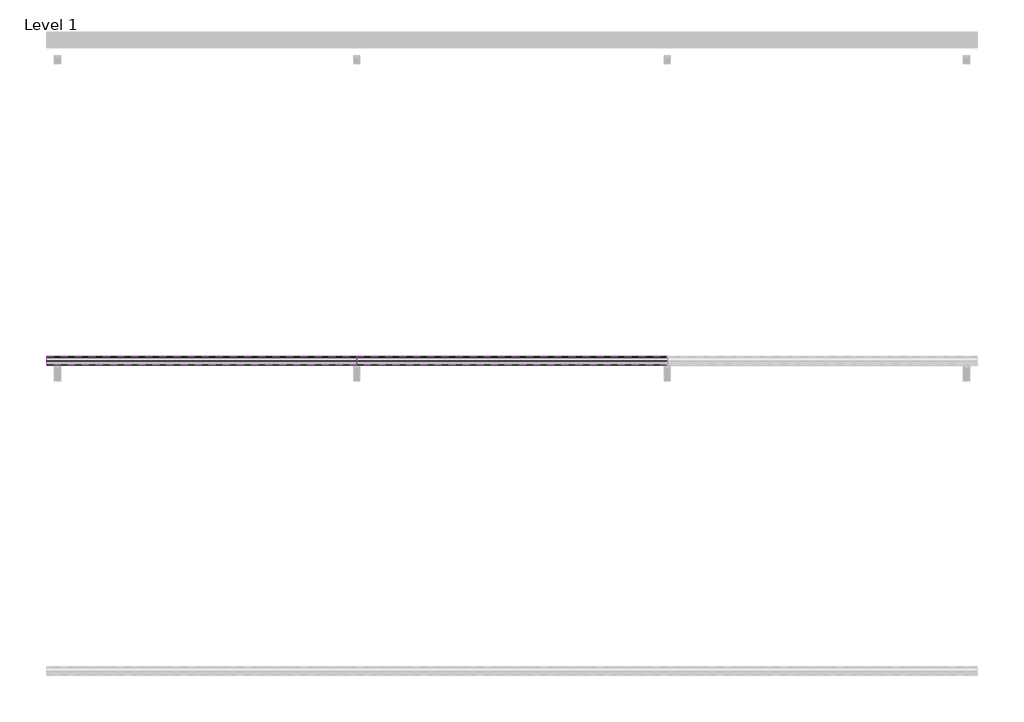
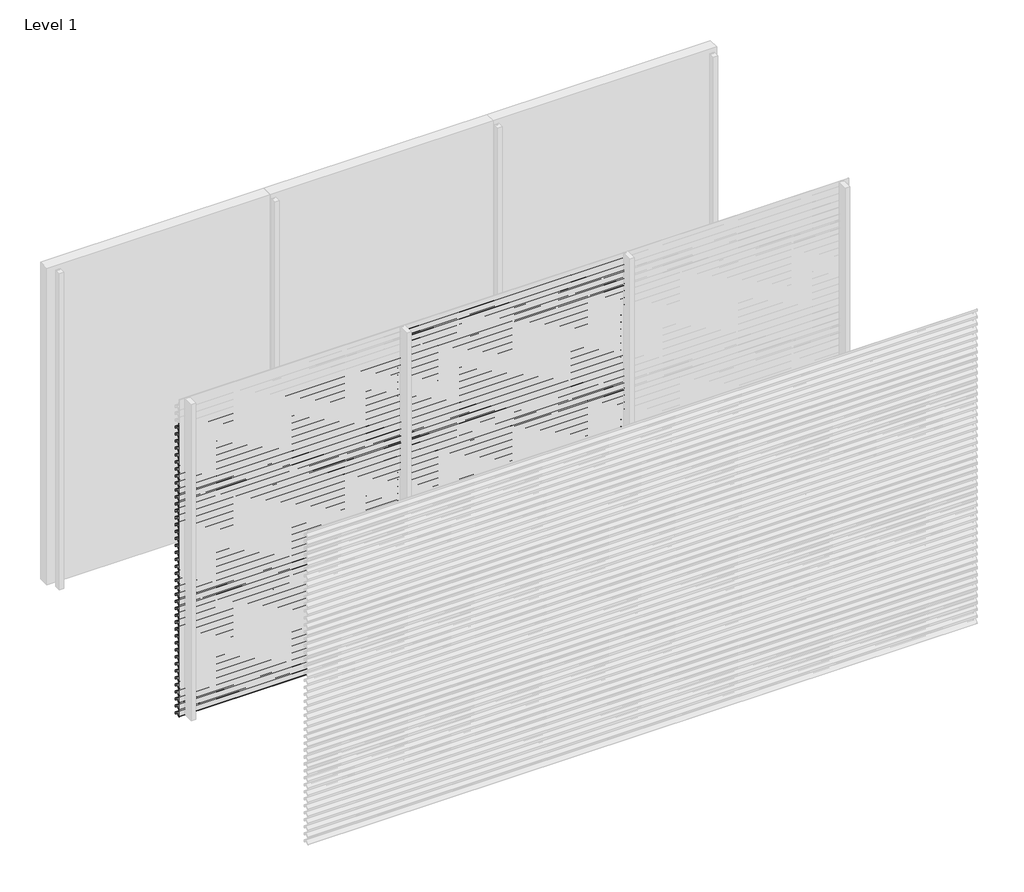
# One storey, part 11 of 27: 70 proxies.
"""IFC4 building model written with IfcOpenShell, lengths in millimetres."""

from ifc_helpers import new_model, si_unit, frame, origin, place, context, project, spatial, polyline, outline, extrude, element, save

model = new_model("IFC4")

# Units and contexts
model_context = context("Model", 3, world=origin())
ifc_project = project(units=[si_unit("LENGTHUNIT", "METRE", prefix="MILLI")], contexts=[model_context])

# Site, building, storey
site = spatial("IfcSite", under=ifc_project)
building = spatial("IfcBuilding", under=site)
storey = spatial("IfcBuildingStorey", under=building, Name="Level 1", Elevation=0.0)

# Proxies
placement = place(None, origin())
element("IfcBuildingElementProxy", 1, Name="Wall Sweeps", at=placement, inside=storey, context=model_context, shape_type="SweptSolid", body=[
    extrude(outline(polyline([(-35943.0, 2715.2), (-35943.0, 2695.5), (-35944.25, 2696.5866084), (-35944.25, 2714.4872415), (-35963.0322086, 2727.6010889), (-35995.1332975, 2695.5), (-35996.0525363, 2696.4192388), (-35964.1148087, 2728.3569665), (-35998.0, 2752.0158044), (-35998.0, 2772.0), (-35996.75, 2772.0), (-35996.75, 2752.7285629), (-35943.0, 2715.2)])), frame((0.0, 0.0, 0.0), z_axis=(1.0, 0.0, 0.0), x_axis=(0.0, 1.0, 0.0)), (0.0, 0.0, 1.0), 2000.0),
])
element("IfcBuildingElementProxy", 2, Name="Wall Sweeps", at=placement, inside=storey, context=model_context, shape_type="SweptSolid", body=[
    extrude(outline(polyline([(-35943.0, 2649.2), (-35943.0, 2629.5), (-35944.25, 2630.5866084), (-35944.25, 2648.4872415), (-35963.0322086, 2661.6010889), (-35995.1332975, 2629.5), (-35996.0525363, 2630.4192388), (-35964.1148087, 2662.3569665), (-35998.0, 2686.0158044), (-35998.0, 2706.0), (-35996.75, 2706.0), (-35996.75, 2686.7285629), (-35943.0, 2649.2)])), frame((0.0, 0.0, 0.0), z_axis=(1.0, 0.0, 0.0), x_axis=(0.0, 1.0, 0.0)), (0.0, 0.0, 1.0), 2000.0),
])
element("IfcBuildingElementProxy", 3, Name="Wall Sweeps", at=placement, inside=storey, context=model_context, shape_type="SweptSolid", body=[
    extrude(outline(polyline([(-35943.0, 2583.2), (-35943.0, 2563.5), (-35944.25, 2564.5866084), (-35944.25, 2582.4872415), (-35963.0322086, 2595.6010889), (-35995.1332975, 2563.5), (-35996.0525363, 2564.4192388), (-35964.1148087, 2596.3569665), (-35998.0, 2620.0158044), (-35998.0, 2640.0), (-35996.75, 2640.0), (-35996.75, 2620.7285629), (-35943.0, 2583.2)])), frame((0.0, 0.0, 0.0), z_axis=(1.0, 0.0, 0.0), x_axis=(0.0, 1.0, 0.0)), (0.0, 0.0, 1.0), 2000.0),
])
element("IfcBuildingElementProxy", 4, Name="Wall Sweeps", at=placement, inside=storey, context=model_context, shape_type="SweptSolid", body=[
    extrude(outline(polyline([(-35943.0, 2517.2), (-35943.0, 2497.5), (-35944.25, 2498.5866084), (-35944.25, 2516.4872415), (-35963.0322086, 2529.6010889), (-35995.1332975, 2497.5), (-35996.0525363, 2498.4192388), (-35964.1148087, 2530.3569665), (-35998.0, 2554.0158044), (-35998.0, 2574.0), (-35996.75, 2574.0), (-35996.75, 2554.7285629), (-35943.0, 2517.2)])), frame((0.0, 0.0, 0.0), z_axis=(1.0, 0.0, 0.0), x_axis=(0.0, 1.0, 0.0)), (0.0, 0.0, 1.0), 2000.0),
])
element("IfcBuildingElementProxy", 5, Name="Wall Sweeps", at=placement, inside=storey, context=model_context, shape_type="SweptSolid", body=[
    extrude(outline(polyline([(-35943.0, 2451.2), (-35943.0, 2431.5), (-35944.25, 2432.5866084), (-35944.25, 2450.4872415), (-35963.0322086, 2463.6010889), (-35995.1332975, 2431.5), (-35996.0525363, 2432.4192388), (-35964.1148087, 2464.3569665), (-35998.0, 2488.0158044), (-35998.0, 2508.0), (-35996.75, 2508.0), (-35996.75, 2488.7285629), (-35943.0, 2451.2)])), frame((0.0, 0.0, 0.0), z_axis=(1.0, 0.0, 0.0), x_axis=(0.0, 1.0, 0.0)), (0.0, 0.0, 1.0), 2000.0),
])
element("IfcBuildingElementProxy", 6, Name="Wall Sweeps", at=placement, inside=storey, context=model_context, shape_type="SweptSolid", body=[
    extrude(outline(polyline([(-35943.0, 2385.2), (-35943.0, 2365.5), (-35944.25, 2366.5866084), (-35944.25, 2384.4872415), (-35963.0322086, 2397.6010889), (-35995.1332975, 2365.5), (-35996.0525363, 2366.4192388), (-35964.1148087, 2398.3569665), (-35998.0, 2422.0158044), (-35998.0, 2442.0), (-35996.75, 2442.0), (-35996.75, 2422.7285629), (-35943.0, 2385.2)])), frame((0.0, 0.0, 0.0), z_axis=(1.0, 0.0, 0.0), x_axis=(0.0, 1.0, 0.0)), (0.0, 0.0, 1.0), 2000.0),
])
element("IfcBuildingElementProxy", 7, Name="Wall Sweeps", at=placement, inside=storey, context=model_context, shape_type="SweptSolid", body=[
    extrude(outline(polyline([(-35943.0, 2319.2), (-35943.0, 2299.5), (-35944.25, 2300.5866084), (-35944.25, 2318.4872415), (-35963.0322086, 2331.6010889), (-35995.1332975, 2299.5), (-35996.0525363, 2300.4192388), (-35964.1148087, 2332.3569665), (-35998.0, 2356.0158044), (-35998.0, 2376.0), (-35996.75, 2376.0), (-35996.75, 2356.7285629), (-35943.0, 2319.2)])), frame((0.0, 0.0, 0.0), z_axis=(1.0, 0.0, 0.0), x_axis=(0.0, 1.0, 0.0)), (0.0, 0.0, 1.0), 2000.0),
])
element("IfcBuildingElementProxy", 8, Name="Wall Sweeps", at=placement, inside=storey, context=model_context, shape_type="SweptSolid", body=[
    extrude(outline(polyline([(-35943.0, 2253.2), (-35943.0, 2233.5), (-35944.25, 2234.5866084), (-35944.25, 2252.4872415), (-35963.0322086, 2265.6010889), (-35995.1332975, 2233.5), (-35996.0525363, 2234.4192388), (-35964.1148087, 2266.3569665), (-35998.0, 2290.0158044), (-35998.0, 2310.0), (-35996.75, 2310.0), (-35996.75, 2290.7285629), (-35943.0, 2253.2)])), frame((0.0, 0.0, 0.0), z_axis=(1.0, 0.0, 0.0), x_axis=(0.0, 1.0, 0.0)), (0.0, 0.0, 1.0), 2000.0),
])
element("IfcBuildingElementProxy", 9, Name="Wall Sweeps", at=placement, inside=storey, context=model_context, shape_type="SweptSolid", body=[
    extrude(outline(polyline([(-35943.0, 2187.2), (-35943.0, 2167.5), (-35944.25, 2168.5866084), (-35944.25, 2186.4872415), (-35963.0322086, 2199.6010889), (-35995.1332975, 2167.5), (-35996.0525363, 2168.4192388), (-35964.1148087, 2200.3569665), (-35998.0, 2224.0158044), (-35998.0, 2244.0), (-35996.75, 2244.0), (-35996.75, 2224.7285629), (-35943.0, 2187.2)])), frame((0.0, 0.0, 0.0), z_axis=(1.0, 0.0, 0.0), x_axis=(0.0, 1.0, 0.0)), (0.0, 0.0, 1.0), 2000.0),
])
element("IfcBuildingElementProxy", 10, Name="Wall Sweeps", at=placement, inside=storey, context=model_context, shape_type="SweptSolid", body=[
    extrude(outline(polyline([(-35943.0, 2121.2), (-35943.0, 2101.5), (-35944.25, 2102.5866084), (-35944.25, 2120.4872415), (-35963.0322086, 2133.6010889), (-35995.1332975, 2101.5), (-35996.0525363, 2102.4192388), (-35964.1148087, 2134.3569665), (-35998.0, 2158.0158044), (-35998.0, 2178.0), (-35996.75, 2178.0), (-35996.75, 2158.7285629), (-35943.0, 2121.2)])), frame((0.0, 0.0, 0.0), z_axis=(1.0, 0.0, 0.0), x_axis=(0.0, 1.0, 0.0)), (0.0, 0.0, 1.0), 2000.0),
])
element("IfcBuildingElementProxy", 11, Name="Wall Sweeps", at=placement, inside=storey, context=model_context, shape_type="SweptSolid", body=[
    extrude(outline(polyline([(-35943.0, 2055.2), (-35943.0, 2035.5), (-35944.25, 2036.5866084), (-35944.25, 2054.4872415), (-35963.0322086, 2067.6010889), (-35995.1332975, 2035.5), (-35996.0525363, 2036.4192388), (-35964.1148087, 2068.3569665), (-35998.0, 2092.0158044), (-35998.0, 2112.0), (-35996.75, 2112.0), (-35996.75, 2092.7285629), (-35943.0, 2055.2)])), frame((0.0, 0.0, 0.0), z_axis=(1.0, 0.0, 0.0), x_axis=(0.0, 1.0, 0.0)), (0.0, 0.0, 1.0), 2000.0),
])
element("IfcBuildingElementProxy", 12, Name="Wall Sweeps", at=placement, inside=storey, context=model_context, shape_type="SweptSolid", body=[
    extrude(outline(polyline([(-35943.0, 1989.2), (-35943.0, 1969.5), (-35944.25, 1970.5866084), (-35944.25, 1988.4872415), (-35963.0322086, 2001.6010889), (-35995.1332975, 1969.5), (-35996.0525363, 1970.4192388), (-35964.1148087, 2002.3569665), (-35998.0, 2026.0158044), (-35998.0, 2046.0), (-35996.75, 2046.0), (-35996.75, 2026.7285629), (-35943.0, 1989.2)])), frame((0.0, 0.0, 0.0), z_axis=(1.0, 0.0, 0.0), x_axis=(0.0, 1.0, 0.0)), (0.0, 0.0, 1.0), 2000.0),
])
element("IfcBuildingElementProxy", 13, Name="Wall Sweeps", at=placement, inside=storey, context=model_context, shape_type="SweptSolid", body=[
    extrude(outline(polyline([(-35943.0, 1923.2), (-35943.0, 1903.5), (-35944.25, 1904.5866084), (-35944.25, 1922.4872415), (-35963.0322086, 1935.6010889), (-35995.1332975, 1903.5), (-35996.0525363, 1904.4192388), (-35964.1148087, 1936.3569665), (-35998.0, 1960.0158044), (-35998.0, 1980.0), (-35996.75, 1980.0), (-35996.75, 1960.7285629), (-35943.0, 1923.2)])), frame((0.0, 0.0, 0.0), z_axis=(1.0, 0.0, 0.0), x_axis=(0.0, 1.0, 0.0)), (0.0, 0.0, 1.0), 2000.0),
])
element("IfcBuildingElementProxy", 14, Name="Wall Sweeps", at=placement, inside=storey, context=model_context, shape_type="SweptSolid", body=[
    extrude(outline(polyline([(-35943.0, 1857.2), (-35943.0, 1837.5), (-35944.25, 1838.5866084), (-35944.25, 1856.4872415), (-35963.0322086, 1869.6010889), (-35995.1332975, 1837.5), (-35996.0525363, 1838.4192388), (-35964.1148087, 1870.3569665), (-35998.0, 1894.0158044), (-35998.0, 1914.0), (-35996.75, 1914.0), (-35996.75, 1894.7285629), (-35943.0, 1857.2)])), frame((0.0, 0.0, 0.0), z_axis=(1.0, 0.0, 0.0), x_axis=(0.0, 1.0, 0.0)), (0.0, 0.0, 1.0), 2000.0),
])
element("IfcBuildingElementProxy", 15, Name="Wall Sweeps", at=placement, inside=storey, context=model_context, shape_type="SweptSolid", body=[
    extrude(outline(polyline([(-35943.0, 1791.2), (-35943.0, 1771.5), (-35944.25, 1772.5866084), (-35944.25, 1790.4872415), (-35963.0322086, 1803.6010889), (-35995.1332975, 1771.5), (-35996.0525363, 1772.4192388), (-35964.1148087, 1804.3569665), (-35998.0, 1828.0158044), (-35998.0, 1848.0), (-35996.75, 1848.0), (-35996.75, 1828.7285629), (-35943.0, 1791.2)])), frame((0.0, 0.0, 0.0), z_axis=(1.0, 0.0, 0.0), x_axis=(0.0, 1.0, 0.0)), (0.0, 0.0, 1.0), 2000.0),
])
element("IfcBuildingElementProxy", 16, Name="Wall Sweeps", at=placement, inside=storey, context=model_context, shape_type="SweptSolid", body=[
    extrude(outline(polyline([(-35943.0, 1725.2), (-35943.0, 1705.5), (-35944.25, 1706.5866084), (-35944.25, 1724.4872415), (-35963.0322086, 1737.6010889), (-35995.1332975, 1705.5), (-35996.0525363, 1706.4192388), (-35964.1148087, 1738.3569665), (-35998.0, 1762.0158044), (-35998.0, 1782.0), (-35996.75, 1782.0), (-35996.75, 1762.7285629), (-35943.0, 1725.2)])), frame((0.0, 0.0, 0.0), z_axis=(1.0, 0.0, 0.0), x_axis=(0.0, 1.0, 0.0)), (0.0, 0.0, 1.0), 2000.0),
])
element("IfcBuildingElementProxy", 17, Name="Wall Sweeps", at=placement, inside=storey, context=model_context, shape_type="SweptSolid", body=[
    extrude(outline(polyline([(-35943.0, 1659.2), (-35943.0, 1639.5), (-35944.25, 1640.5866084), (-35944.25, 1658.4872415), (-35963.0322086, 1671.6010889), (-35995.1332975, 1639.5), (-35996.0525363, 1640.4192388), (-35964.1148087, 1672.3569665), (-35998.0, 1696.0158044), (-35998.0, 1716.0), (-35996.75, 1716.0), (-35996.75, 1696.7285629), (-35943.0, 1659.2)])), frame((0.0, 0.0, 0.0), z_axis=(1.0, 0.0, 0.0), x_axis=(0.0, 1.0, 0.0)), (0.0, 0.0, 1.0), 2000.0),
])
element("IfcBuildingElementProxy", 18, Name="Wall Sweeps", at=placement, inside=storey, context=model_context, shape_type="SweptSolid", body=[
    extrude(outline(polyline([(-35943.0, 1593.2), (-35943.0, 1573.5), (-35944.25, 1574.5866084), (-35944.25, 1592.4872415), (-35963.0322086, 1605.6010889), (-35995.1332975, 1573.5), (-35996.0525363, 1574.4192388), (-35964.1148087, 1606.3569665), (-35998.0, 1630.0158044), (-35998.0, 1650.0), (-35996.75, 1650.0), (-35996.75, 1630.7285629), (-35943.0, 1593.2)])), frame((0.0, 0.0, 0.0), z_axis=(1.0, 0.0, 0.0), x_axis=(0.0, 1.0, 0.0)), (0.0, 0.0, 1.0), 2000.0),
])
element("IfcBuildingElementProxy", 19, Name="Wall Sweeps", at=placement, inside=storey, context=model_context, shape_type="SweptSolid", body=[
    extrude(outline(polyline([(-35943.0, 1527.2), (-35943.0, 1507.5), (-35944.25, 1508.5866084), (-35944.25, 1526.4872415), (-35963.0322086, 1539.6010889), (-35995.1332975, 1507.5), (-35996.0525363, 1508.4192388), (-35964.1148087, 1540.3569665), (-35998.0, 1564.0158044), (-35998.0, 1584.0), (-35996.75, 1584.0), (-35996.75, 1564.7285629), (-35943.0, 1527.2)])), frame((0.0, 0.0, 0.0), z_axis=(1.0, 0.0, 0.0), x_axis=(0.0, 1.0, 0.0)), (0.0, 0.0, 1.0), 2000.0),
])
element("IfcBuildingElementProxy", 20, Name="Wall Sweeps", at=placement, inside=storey, context=model_context, shape_type="SweptSolid", body=[
    extrude(outline(polyline([(-35943.0, 1461.2), (-35943.0, 1441.5), (-35944.25, 1442.5866084), (-35944.25, 1460.4872415), (-35963.0322086, 1473.6010889), (-35995.1332975, 1441.5), (-35996.0525363, 1442.4192388), (-35964.1148087, 1474.3569665), (-35998.0, 1498.0158044), (-35998.0, 1518.0), (-35996.75, 1518.0), (-35996.75, 1498.7285629), (-35943.0, 1461.2)])), frame((0.0, 0.0, 0.0), z_axis=(1.0, 0.0, 0.0), x_axis=(0.0, 1.0, 0.0)), (0.0, 0.0, 1.0), 2000.0),
])
element("IfcBuildingElementProxy", 21, Name="Wall Sweeps", at=placement, inside=storey, context=model_context, shape_type="SweptSolid", body=[
    extrude(outline(polyline([(-35943.0, 1395.2), (-35943.0, 1375.5), (-35944.25, 1376.5866084), (-35944.25, 1394.4872415), (-35963.0322086, 1407.6010889), (-35995.1332975, 1375.5), (-35996.0525363, 1376.4192388), (-35964.1148087, 1408.3569665), (-35998.0, 1432.0158044), (-35998.0, 1452.0), (-35996.75, 1452.0), (-35996.75, 1432.7285629), (-35943.0, 1395.2)])), frame((0.0, 0.0, 0.0), z_axis=(1.0, 0.0, 0.0), x_axis=(0.0, 1.0, 0.0)), (0.0, 0.0, 1.0), 2000.0),
])
element("IfcBuildingElementProxy", 22, Name="Wall Sweeps", at=placement, inside=storey, context=model_context, shape_type="SweptSolid", body=[
    extrude(outline(polyline([(-35943.0, 1329.2), (-35943.0, 1309.5), (-35944.25, 1310.5866084), (-35944.25, 1328.4872415), (-35963.0322086, 1341.6010889), (-35995.1332975, 1309.5), (-35996.0525363, 1310.4192388), (-35964.1148087, 1342.3569665), (-35998.0, 1366.0158044), (-35998.0, 1386.0), (-35996.75, 1386.0), (-35996.75, 1366.7285629), (-35943.0, 1329.2)])), frame((0.0, 0.0, 0.0), z_axis=(1.0, 0.0, 0.0), x_axis=(0.0, 1.0, 0.0)), (0.0, 0.0, 1.0), 2000.0),
])
element("IfcBuildingElementProxy", 23, Name="Wall Sweeps", at=placement, inside=storey, context=model_context, shape_type="SweptSolid", body=[
    extrude(outline(polyline([(-35943.0, 1263.2), (-35943.0, 1243.5), (-35944.25, 1244.5866084), (-35944.25, 1262.4872415), (-35963.0322086, 1275.6010889), (-35995.1332975, 1243.5), (-35996.0525363, 1244.4192388), (-35964.1148087, 1276.3569665), (-35998.0, 1300.0158044), (-35998.0, 1320.0), (-35996.75, 1320.0), (-35996.75, 1300.7285629), (-35943.0, 1263.2)])), frame((0.0, 0.0, 0.0), z_axis=(1.0, 0.0, 0.0), x_axis=(0.0, 1.0, 0.0)), (0.0, 0.0, 1.0), 2000.0),
])
element("IfcBuildingElementProxy", 24, Name="Wall Sweeps", at=placement, inside=storey, context=model_context, shape_type="SweptSolid", body=[
    extrude(outline(polyline([(-35943.0, 1197.2), (-35943.0, 1177.5), (-35944.25, 1178.5866084), (-35944.25, 1196.4872415), (-35963.0322086, 1209.6010889), (-35995.1332975, 1177.5), (-35996.0525363, 1178.4192388), (-35964.1148087, 1210.3569665), (-35998.0, 1234.0158044), (-35998.0, 1254.0), (-35996.75, 1254.0), (-35996.75, 1234.7285629), (-35943.0, 1197.2)])), frame((0.0, 0.0, 0.0), z_axis=(1.0, 0.0, 0.0), x_axis=(0.0, 1.0, 0.0)), (0.0, 0.0, 1.0), 2000.0),
])
element("IfcBuildingElementProxy", 25, Name="Wall Sweeps", at=placement, inside=storey, context=model_context, shape_type="SweptSolid", body=[
    extrude(outline(polyline([(-35943.0, 1131.2), (-35943.0, 1111.5), (-35944.25, 1112.5866084), (-35944.25, 1130.4872415), (-35963.0322086, 1143.6010889), (-35995.1332975, 1111.5), (-35996.0525363, 1112.4192388), (-35964.1148087, 1144.3569665), (-35998.0, 1168.0158044), (-35998.0, 1188.0), (-35996.75, 1188.0), (-35996.75, 1168.7285629), (-35943.0, 1131.2)])), frame((0.0, 0.0, 0.0), z_axis=(1.0, 0.0, 0.0), x_axis=(0.0, 1.0, 0.0)), (0.0, 0.0, 1.0), 2000.0),
])
element("IfcBuildingElementProxy", 26, Name="Wall Sweeps", at=placement, inside=storey, context=model_context, shape_type="SweptSolid", body=[
    extrude(outline(polyline([(-35943.0, 1065.2), (-35943.0, 1045.5), (-35944.25, 1046.5866084), (-35944.25, 1064.4872415), (-35963.0322086, 1077.6010889), (-35995.1332975, 1045.5), (-35996.0525363, 1046.4192388), (-35964.1148087, 1078.3569665), (-35998.0, 1102.0158044), (-35998.0, 1122.0), (-35996.75, 1122.0), (-35996.75, 1102.7285629), (-35943.0, 1065.2)])), frame((0.0, 0.0, 0.0), z_axis=(1.0, 0.0, 0.0), x_axis=(0.0, 1.0, 0.0)), (0.0, 0.0, 1.0), 2000.0),
])
element("IfcBuildingElementProxy", 27, Name="Wall Sweeps", at=placement, inside=storey, context=model_context, shape_type="SweptSolid", body=[
    extrude(outline(polyline([(-35943.0, 999.2), (-35943.0, 979.5), (-35944.25, 980.5866084), (-35944.25, 998.4872415), (-35963.0322086, 1011.6010889), (-35995.1332975, 979.5), (-35996.0525363, 980.4192388), (-35964.1148087, 1012.3569665), (-35998.0, 1036.0158044), (-35998.0, 1056.0), (-35996.75, 1056.0), (-35996.75, 1036.7285629), (-35943.0, 999.2)])), frame((0.0, 0.0, 0.0), z_axis=(1.0, 0.0, 0.0), x_axis=(0.0, 1.0, 0.0)), (0.0, 0.0, 1.0), 2000.0),
])
element("IfcBuildingElementProxy", 28, Name="Wall Sweeps", at=placement, inside=storey, context=model_context, shape_type="SweptSolid", body=[
    extrude(outline(polyline([(-35943.0, 933.2), (-35943.0, 913.5), (-35944.25, 914.5866084), (-35944.25, 932.4872415), (-35963.0322086, 945.6010889), (-35995.1332975, 913.5), (-35996.0525363, 914.4192388), (-35964.1148087, 946.3569665), (-35998.0, 970.0158044), (-35998.0, 990.0), (-35996.75, 990.0), (-35996.75, 970.7285629), (-35943.0, 933.2)])), frame((0.0, 0.0, 0.0), z_axis=(1.0, 0.0, 0.0), x_axis=(0.0, 1.0, 0.0)), (0.0, 0.0, 1.0), 2000.0),
])
element("IfcBuildingElementProxy", 29, Name="Wall Sweeps", at=placement, inside=storey, context=model_context, shape_type="SweptSolid", body=[
    extrude(outline(polyline([(-35943.0, 867.2), (-35943.0, 847.5), (-35944.25, 848.5866084), (-35944.25, 866.4872415), (-35963.0322086, 879.6010889), (-35995.1332975, 847.5), (-35996.0525363, 848.4192388), (-35964.1148087, 880.3569665), (-35998.0, 904.0158044), (-35998.0, 924.0), (-35996.75, 924.0), (-35996.75, 904.7285629), (-35943.0, 867.2)])), frame((0.0, 0.0, 0.0), z_axis=(1.0, 0.0, 0.0), x_axis=(0.0, 1.0, 0.0)), (0.0, 0.0, 1.0), 2000.0),
])
element("IfcBuildingElementProxy", 30, Name="Wall Sweeps", at=placement, inside=storey, context=model_context, shape_type="SweptSolid", body=[
    extrude(outline(polyline([(-35943.0, 801.2), (-35943.0, 781.5), (-35944.25, 782.5866084), (-35944.25, 800.4872415), (-35963.0322086, 813.6010889), (-35995.1332975, 781.5), (-35996.0525363, 782.4192388), (-35964.1148087, 814.3569665), (-35998.0, 838.0158044), (-35998.0, 858.0), (-35996.75, 858.0), (-35996.75, 838.7285629), (-35943.0, 801.2)])), frame((0.0, 0.0, 0.0), z_axis=(1.0, 0.0, 0.0), x_axis=(0.0, 1.0, 0.0)), (0.0, 0.0, 1.0), 2000.0),
])
element("IfcBuildingElementProxy", 31, Name="Wall Sweeps", at=placement, inside=storey, context=model_context, shape_type="SweptSolid", body=[
    extrude(outline(polyline([(-35943.0, 735.2), (-35943.0, 715.5), (-35944.25, 716.5866084), (-35944.25, 734.4872415), (-35963.0322086, 747.6010889), (-35995.1332975, 715.5), (-35996.0525363, 716.4192388), (-35964.1148087, 748.3569665), (-35998.0, 772.0158044), (-35998.0, 792.0), (-35996.75, 792.0), (-35996.75, 772.7285629), (-35943.0, 735.2)])), frame((0.0, 0.0, 0.0), z_axis=(1.0, 0.0, 0.0), x_axis=(0.0, 1.0, 0.0)), (0.0, 0.0, 1.0), 2000.0),
])
element("IfcBuildingElementProxy", 32, Name="Wall Sweeps", at=placement, inside=storey, context=model_context, shape_type="SweptSolid", body=[
    extrude(outline(polyline([(-35943.0, 669.2), (-35943.0, 649.5), (-35944.25, 650.5866084), (-35944.25, 668.4872415), (-35963.0322086, 681.6010889), (-35995.1332975, 649.5), (-35996.0525363, 650.4192388), (-35964.1148087, 682.3569665), (-35998.0, 706.0158044), (-35998.0, 726.0), (-35996.75, 726.0), (-35996.75, 706.7285629), (-35943.0, 669.2)])), frame((0.0, 0.0, 0.0), z_axis=(1.0, 0.0, 0.0), x_axis=(0.0, 1.0, 0.0)), (0.0, 0.0, 1.0), 2000.0),
])
element("IfcBuildingElementProxy", 33, Name="Wall Sweeps", at=placement, inside=storey, context=model_context, shape_type="SweptSolid", body=[
    extrude(outline(polyline([(-35943.0, 603.2), (-35943.0, 583.5), (-35944.25, 584.5866084), (-35944.25, 602.4872415), (-35963.0322086, 615.6010889), (-35995.1332975, 583.5), (-35996.0525363, 584.4192388), (-35964.1148087, 616.3569665), (-35998.0, 640.0158044), (-35998.0, 660.0), (-35996.75, 660.0), (-35996.75, 640.7285629), (-35943.0, 603.2)])), frame((0.0, 0.0, 0.0), z_axis=(1.0, 0.0, 0.0), x_axis=(0.0, 1.0, 0.0)), (0.0, 0.0, 1.0), 2000.0),
])
element("IfcBuildingElementProxy", 34, Name="Wall Sweeps", at=placement, inside=storey, context=model_context, shape_type="SweptSolid", body=[
    extrude(outline(polyline([(-35943.0, 537.2), (-35943.0, 517.5), (-35944.25, 518.5866084), (-35944.25, 536.4872415), (-35963.0322086, 549.6010889), (-35995.1332975, 517.5), (-35996.0525363, 518.4192388), (-35964.1148087, 550.3569665), (-35998.0, 574.0158044), (-35998.0, 594.0), (-35996.75, 594.0), (-35996.75, 574.7285629), (-35943.0, 537.2)])), frame((0.0, 0.0, 0.0), z_axis=(1.0, 0.0, 0.0), x_axis=(0.0, 1.0, 0.0)), (0.0, 0.0, 1.0), 2000.0),
])
element("IfcBuildingElementProxy", 35, Name="Wall Sweeps", at=placement, inside=storey, context=model_context, shape_type="SweptSolid", body=[
    extrude(outline(polyline([(-35943.0, 471.2), (-35943.0, 451.5), (-35944.25, 452.5866084), (-35944.25, 470.4872415), (-35963.0322086, 483.6010889), (-35995.1332975, 451.5), (-35996.0525363, 452.4192388), (-35964.1148087, 484.3569665), (-35998.0, 508.0158044), (-35998.0, 528.0), (-35996.75, 528.0), (-35996.75, 508.7285629), (-35943.0, 471.2)])), frame((0.0, 0.0, 0.0), z_axis=(1.0, 0.0, 0.0), x_axis=(0.0, 1.0, 0.0)), (0.0, 0.0, 1.0), 2000.0),
])
element("IfcBuildingElementProxy", 36, Name="Wall Sweeps", at=placement, inside=storey, context=model_context, shape_type="SweptSolid", body=[
    extrude(outline(polyline([(-35943.0, 405.2), (-35943.0, 385.5), (-35944.25, 386.5866084), (-35944.25, 404.4872415), (-35963.0322086, 417.6010889), (-35995.1332975, 385.5), (-35996.0525363, 386.4192388), (-35964.1148087, 418.3569665), (-35998.0, 442.0158044), (-35998.0, 462.0), (-35996.75, 462.0), (-35996.75, 442.7285629), (-35943.0, 405.2)])), frame((0.0, 0.0, 0.0), z_axis=(1.0, 0.0, 0.0), x_axis=(0.0, 1.0, 0.0)), (0.0, 0.0, 1.0), 2000.0),
])
element("IfcBuildingElementProxy", 37, Name="Wall Sweeps", at=placement, inside=storey, context=model_context, shape_type="SweptSolid", body=[
    extrude(outline(polyline([(-35943.0, 339.2), (-35943.0, 319.5), (-35944.25, 320.5866084), (-35944.25, 338.4872415), (-35963.0322086, 351.6010889), (-35995.1332975, 319.5), (-35996.0525363, 320.4192388), (-35964.1148087, 352.3569665), (-35998.0, 376.0158044), (-35998.0, 396.0), (-35996.75, 396.0), (-35996.75, 376.7285629), (-35943.0, 339.2)])), frame((0.0, 0.0, 0.0), z_axis=(1.0, 0.0, 0.0), x_axis=(0.0, 1.0, 0.0)), (0.0, 0.0, 1.0), 2000.0),
])
element("IfcBuildingElementProxy", 38, Name="Wall Sweeps", at=placement, inside=storey, context=model_context, shape_type="SweptSolid", body=[
    extrude(outline(polyline([(-35943.0, 273.2), (-35943.0, 253.5), (-35944.25, 254.5866084), (-35944.25, 272.4872415), (-35963.0322086, 285.6010889), (-35995.1332975, 253.5), (-35996.0525363, 254.4192388), (-35964.1148087, 286.3569665), (-35998.0, 310.0158044), (-35998.0, 330.0), (-35996.75, 330.0), (-35996.75, 310.7285629), (-35943.0, 273.2)])), frame((0.0, 0.0, 0.0), z_axis=(1.0, 0.0, 0.0), x_axis=(0.0, 1.0, 0.0)), (0.0, 0.0, 1.0), 2000.0),
])
element("IfcBuildingElementProxy", 39, Name="Wall Sweeps", at=placement, inside=storey, context=model_context, shape_type="SweptSolid", body=[
    extrude(outline(polyline([(-35943.0, 207.2), (-35943.0, 187.5), (-35944.25, 188.5866084), (-35944.25, 206.4872415), (-35963.0322086, 219.6010889), (-35995.1332975, 187.5), (-35996.0525363, 188.4192388), (-35964.1148087, 220.3569665), (-35998.0, 244.0158044), (-35998.0, 264.0), (-35996.75, 264.0), (-35996.75, 244.7285629), (-35943.0, 207.2)])), frame((0.0, 0.0, 0.0), z_axis=(1.0, 0.0, 0.0), x_axis=(0.0, 1.0, 0.0)), (0.0, 0.0, 1.0), 2000.0),
])
element("IfcBuildingElementProxy", 40, Name="Wall Sweeps", at=placement, inside=storey, context=model_context, shape_type="SweptSolid", body=[
    extrude(outline(polyline([(-35943.0, 141.2), (-35943.0, 121.5), (-35944.25, 122.5866084), (-35944.25, 140.4872415), (-35963.0322086, 153.6010889), (-35995.1332975, 121.5), (-35996.0525363, 122.4192388), (-35964.1148087, 154.3569665), (-35998.0, 178.0158044), (-35998.0, 198.0), (-35996.75, 198.0), (-35996.75, 178.7285629), (-35943.0, 141.2)])), frame((0.0, 0.0, 0.0), z_axis=(1.0, 0.0, 0.0), x_axis=(0.0, 1.0, 0.0)), (0.0, 0.0, 1.0), 2000.0),
])
element("IfcBuildingElementProxy", 41, Name="Wall Sweeps", at=placement, inside=storey, context=model_context, shape_type="SweptSolid", body=[
    extrude(outline(polyline([(-35943.0, 75.2), (-35943.0, 55.5), (-35944.25, 56.5866084), (-35944.25, 74.4872415), (-35963.0322086, 87.6010889), (-35995.1332975, 55.5), (-35996.0525363, 56.4192388), (-35964.1148087, 88.3569665), (-35998.0, 112.0158044), (-35998.0, 132.0), (-35996.75, 132.0), (-35996.75, 112.7285629), (-35943.0, 75.2)])), frame((0.0, 0.0, 0.0), z_axis=(1.0, 0.0, 0.0), x_axis=(0.0, 1.0, 0.0)), (0.0, 0.0, 1.0), 2000.0),
])
element("IfcBuildingElementProxy", 42, Name="Wall Sweeps", at=placement, inside=storey, context=model_context, shape_type="SweptSolid", body=[
    extrude(outline(polyline([(-35943.0, 9.2), (-35943.0, -10.5), (-35944.25, -9.4133916), (-35944.25, 8.4872415), (-35963.0322086, 21.6010889), (-35995.1332975, -10.5), (-35996.0525363, -9.5807612), (-35964.1148087, 22.3569665), (-35998.0, 46.0158044), (-35998.0, 66.0), (-35996.75, 66.0), (-35996.75, 46.7285629), (-35943.0, 9.2)])), frame((0.0, 0.0, 0.0), z_axis=(1.0, 0.0, 0.0), x_axis=(0.0, 1.0, 0.0)), (0.0, 0.0, 1.0), 2000.0),
])
element("IfcBuildingElementProxy", 43, Name="Wall Sweeps", at=placement, inside=storey, context=model_context, shape_type="SweptSolid", body=[
    extrude(outline(polyline([(-35943.0, 2913.2), (-35943.0, 2893.5), (-35944.25, 2894.5866084), (-35944.25, 2912.4872415), (-35963.0322086, 2925.6010889), (-35995.1332975, 2893.5), (-35996.0525363, 2894.4192388), (-35964.1148087, 2926.3569665), (-35998.0, 2950.0158044), (-35998.0, 2970.0), (-35996.75, 2970.0), (-35996.75, 2950.7285629), (-35943.0, 2913.2)])), frame((2000.0, 0.0, 0.0), z_axis=(1.0, 0.0, 0.0), x_axis=(0.0, 1.0, 0.0)), (0.0, 0.0, 1.0), 2000.0),
])
element("IfcBuildingElementProxy", 44, Name="Wall Sweeps", at=placement, inside=storey, context=model_context, shape_type="SweptSolid", body=[
    extrude(outline(polyline([(-35943.0, 2847.2), (-35943.0, 2827.5), (-35944.25, 2828.5866084), (-35944.25, 2846.4872415), (-35963.0322086, 2859.6010889), (-35995.1332975, 2827.5), (-35996.0525363, 2828.4192388), (-35964.1148087, 2860.3569665), (-35998.0, 2884.0158044), (-35998.0, 2904.0), (-35996.75, 2904.0), (-35996.75, 2884.7285629), (-35943.0, 2847.2)])), frame((2000.0, 0.0, 0.0), z_axis=(1.0, 0.0, 0.0), x_axis=(0.0, 1.0, 0.0)), (0.0, 0.0, 1.0), 2000.0),
])
element("IfcBuildingElementProxy", 45, Name="Wall Sweeps", at=placement, inside=storey, context=model_context, shape_type="SweptSolid", body=[
    extrude(outline(polyline([(-35943.0, 2781.2), (-35943.0, 2761.5), (-35944.25, 2762.5866084), (-35944.25, 2780.4872415), (-35963.0322086, 2793.6010889), (-35995.1332975, 2761.5), (-35996.0525363, 2762.4192388), (-35964.1148087, 2794.3569665), (-35998.0, 2818.0158044), (-35998.0, 2838.0), (-35996.75, 2838.0), (-35996.75, 2818.7285629), (-35943.0, 2781.2)])), frame((2000.0, 0.0, 0.0), z_axis=(1.0, 0.0, 0.0), x_axis=(0.0, 1.0, 0.0)), (0.0, 0.0, 1.0), 2000.0),
])
element("IfcBuildingElementProxy", 46, Name="Wall Sweeps", at=placement, inside=storey, context=model_context, shape_type="SweptSolid", body=[
    extrude(outline(polyline([(-35943.0, 2715.2), (-35943.0, 2695.5), (-35944.25, 2696.5866084), (-35944.25, 2714.4872415), (-35963.0322086, 2727.6010889), (-35995.1332975, 2695.5), (-35996.0525363, 2696.4192388), (-35964.1148087, 2728.3569665), (-35998.0, 2752.0158044), (-35998.0, 2772.0), (-35996.75, 2772.0), (-35996.75, 2752.7285629), (-35943.0, 2715.2)])), frame((2000.0, 0.0, 0.0), z_axis=(1.0, 0.0, 0.0), x_axis=(0.0, 1.0, 0.0)), (0.0, 0.0, 1.0), 2000.0),
])
element("IfcBuildingElementProxy", 47, Name="Wall Sweeps", at=placement, inside=storey, context=model_context, shape_type="SweptSolid", body=[
    extrude(outline(polyline([(-35943.0, 2649.2), (-35943.0, 2629.5), (-35944.25, 2630.5866084), (-35944.25, 2648.4872415), (-35963.0322086, 2661.6010889), (-35995.1332975, 2629.5), (-35996.0525363, 2630.4192388), (-35964.1148087, 2662.3569665), (-35998.0, 2686.0158044), (-35998.0, 2706.0), (-35996.75, 2706.0), (-35996.75, 2686.7285629), (-35943.0, 2649.2)])), frame((2000.0, 0.0, 0.0), z_axis=(1.0, 0.0, 0.0), x_axis=(0.0, 1.0, 0.0)), (0.0, 0.0, 1.0), 2000.0),
])
element("IfcBuildingElementProxy", 48, Name="Wall Sweeps", at=placement, inside=storey, context=model_context, shape_type="SweptSolid", body=[
    extrude(outline(polyline([(-35943.0, 2583.2), (-35943.0, 2563.5), (-35944.25, 2564.5866084), (-35944.25, 2582.4872415), (-35963.0322086, 2595.6010889), (-35995.1332975, 2563.5), (-35996.0525363, 2564.4192388), (-35964.1148087, 2596.3569665), (-35998.0, 2620.0158044), (-35998.0, 2640.0), (-35996.75, 2640.0), (-35996.75, 2620.7285629), (-35943.0, 2583.2)])), frame((2000.0, 0.0, 0.0), z_axis=(1.0, 0.0, 0.0), x_axis=(0.0, 1.0, 0.0)), (0.0, 0.0, 1.0), 2000.0),
])
element("IfcBuildingElementProxy", 49, Name="Wall Sweeps", at=placement, inside=storey, context=model_context, shape_type="SweptSolid", body=[
    extrude(outline(polyline([(-35943.0, 2517.2), (-35943.0, 2497.5), (-35944.25, 2498.5866084), (-35944.25, 2516.4872415), (-35963.0322086, 2529.6010889), (-35995.1332975, 2497.5), (-35996.0525363, 2498.4192388), (-35964.1148087, 2530.3569665), (-35998.0, 2554.0158044), (-35998.0, 2574.0), (-35996.75, 2574.0), (-35996.75, 2554.7285629), (-35943.0, 2517.2)])), frame((2000.0, 0.0, 0.0), z_axis=(1.0, 0.0, 0.0), x_axis=(0.0, 1.0, 0.0)), (0.0, 0.0, 1.0), 2000.0),
])
element("IfcBuildingElementProxy", 50, Name="Wall Sweeps", at=placement, inside=storey, context=model_context, shape_type="SweptSolid", body=[
    extrude(outline(polyline([(-35943.0, 2451.2), (-35943.0, 2431.5), (-35944.25, 2432.5866084), (-35944.25, 2450.4872415), (-35963.0322086, 2463.6010889), (-35995.1332975, 2431.5), (-35996.0525363, 2432.4192388), (-35964.1148087, 2464.3569665), (-35998.0, 2488.0158044), (-35998.0, 2508.0), (-35996.75, 2508.0), (-35996.75, 2488.7285629), (-35943.0, 2451.2)])), frame((2000.0, 0.0, 0.0), z_axis=(1.0, 0.0, 0.0), x_axis=(0.0, 1.0, 0.0)), (0.0, 0.0, 1.0), 2000.0),
])
element("IfcBuildingElementProxy", 51, Name="Wall Sweeps", at=placement, inside=storey, context=model_context, shape_type="SweptSolid", body=[
    extrude(outline(polyline([(-35943.0, 2385.2), (-35943.0, 2365.5), (-35944.25, 2366.5866084), (-35944.25, 2384.4872415), (-35963.0322086, 2397.6010889), (-35995.1332975, 2365.5), (-35996.0525363, 2366.4192388), (-35964.1148087, 2398.3569665), (-35998.0, 2422.0158044), (-35998.0, 2442.0), (-35996.75, 2442.0), (-35996.75, 2422.7285629), (-35943.0, 2385.2)])), frame((2000.0, 0.0, 0.0), z_axis=(1.0, 0.0, 0.0), x_axis=(0.0, 1.0, 0.0)), (0.0, 0.0, 1.0), 2000.0),
])
element("IfcBuildingElementProxy", 52, Name="Wall Sweeps", at=placement, inside=storey, context=model_context, shape_type="SweptSolid", body=[
    extrude(outline(polyline([(-35943.0, 2319.2), (-35943.0, 2299.5), (-35944.25, 2300.5866084), (-35944.25, 2318.4872415), (-35963.0322086, 2331.6010889), (-35995.1332975, 2299.5), (-35996.0525363, 2300.4192388), (-35964.1148087, 2332.3569665), (-35998.0, 2356.0158044), (-35998.0, 2376.0), (-35996.75, 2376.0), (-35996.75, 2356.7285629), (-35943.0, 2319.2)])), frame((2000.0, 0.0, 0.0), z_axis=(1.0, 0.0, 0.0), x_axis=(0.0, 1.0, 0.0)), (0.0, 0.0, 1.0), 2000.0),
])
element("IfcBuildingElementProxy", 53, Name="Wall Sweeps", at=placement, inside=storey, context=model_context, shape_type="SweptSolid", body=[
    extrude(outline(polyline([(-35943.0, 2253.2), (-35943.0, 2233.5), (-35944.25, 2234.5866084), (-35944.25, 2252.4872415), (-35963.0322086, 2265.6010889), (-35995.1332975, 2233.5), (-35996.0525363, 2234.4192388), (-35964.1148087, 2266.3569665), (-35998.0, 2290.0158044), (-35998.0, 2310.0), (-35996.75, 2310.0), (-35996.75, 2290.7285629), (-35943.0, 2253.2)])), frame((2000.0, 0.0, 0.0), z_axis=(1.0, 0.0, 0.0), x_axis=(0.0, 1.0, 0.0)), (0.0, 0.0, 1.0), 2000.0),
])
element("IfcBuildingElementProxy", 54, Name="Wall Sweeps", at=placement, inside=storey, context=model_context, shape_type="SweptSolid", body=[
    extrude(outline(polyline([(-35943.0, 2187.2), (-35943.0, 2167.5), (-35944.25, 2168.5866084), (-35944.25, 2186.4872415), (-35963.0322086, 2199.6010889), (-35995.1332975, 2167.5), (-35996.0525363, 2168.4192388), (-35964.1148087, 2200.3569665), (-35998.0, 2224.0158044), (-35998.0, 2244.0), (-35996.75, 2244.0), (-35996.75, 2224.7285629), (-35943.0, 2187.2)])), frame((2000.0, 0.0, 0.0), z_axis=(1.0, 0.0, 0.0), x_axis=(0.0, 1.0, 0.0)), (0.0, 0.0, 1.0), 2000.0),
])
element("IfcBuildingElementProxy", 55, Name="Wall Sweeps", at=placement, inside=storey, context=model_context, shape_type="SweptSolid", body=[
    extrude(outline(polyline([(-35943.0, 2121.2), (-35943.0, 2101.5), (-35944.25, 2102.5866084), (-35944.25, 2120.4872415), (-35963.0322086, 2133.6010889), (-35995.1332975, 2101.5), (-35996.0525363, 2102.4192388), (-35964.1148087, 2134.3569665), (-35998.0, 2158.0158044), (-35998.0, 2178.0), (-35996.75, 2178.0), (-35996.75, 2158.7285629), (-35943.0, 2121.2)])), frame((2000.0, 0.0, 0.0), z_axis=(1.0, 0.0, 0.0), x_axis=(0.0, 1.0, 0.0)), (0.0, 0.0, 1.0), 2000.0),
])
element("IfcBuildingElementProxy", 56, Name="Wall Sweeps", at=placement, inside=storey, context=model_context, shape_type="SweptSolid", body=[
    extrude(outline(polyline([(-35943.0, 2055.2), (-35943.0, 2035.5), (-35944.25, 2036.5866084), (-35944.25, 2054.4872415), (-35963.0322086, 2067.6010889), (-35995.1332975, 2035.5), (-35996.0525363, 2036.4192388), (-35964.1148087, 2068.3569665), (-35998.0, 2092.0158044), (-35998.0, 2112.0), (-35996.75, 2112.0), (-35996.75, 2092.7285629), (-35943.0, 2055.2)])), frame((2000.0, 0.0, 0.0), z_axis=(1.0, 0.0, 0.0), x_axis=(0.0, 1.0, 0.0)), (0.0, 0.0, 1.0), 2000.0),
])
element("IfcBuildingElementProxy", 57, Name="Wall Sweeps", at=placement, inside=storey, context=model_context, shape_type="SweptSolid", body=[
    extrude(outline(polyline([(-35943.0, 1989.2), (-35943.0, 1969.5), (-35944.25, 1970.5866084), (-35944.25, 1988.4872415), (-35963.0322086, 2001.6010889), (-35995.1332975, 1969.5), (-35996.0525363, 1970.4192388), (-35964.1148087, 2002.3569665), (-35998.0, 2026.0158044), (-35998.0, 2046.0), (-35996.75, 2046.0), (-35996.75, 2026.7285629), (-35943.0, 1989.2)])), frame((2000.0, 0.0, 0.0), z_axis=(1.0, 0.0, 0.0), x_axis=(0.0, 1.0, 0.0)), (0.0, 0.0, 1.0), 2000.0),
])
element("IfcBuildingElementProxy", 58, Name="Wall Sweeps", at=placement, inside=storey, context=model_context, shape_type="SweptSolid", body=[
    extrude(outline(polyline([(-35943.0, 1923.2), (-35943.0, 1903.5), (-35944.25, 1904.5866084), (-35944.25, 1922.4872415), (-35963.0322086, 1935.6010889), (-35995.1332975, 1903.5), (-35996.0525363, 1904.4192388), (-35964.1148087, 1936.3569665), (-35998.0, 1960.0158044), (-35998.0, 1980.0), (-35996.75, 1980.0), (-35996.75, 1960.7285629), (-35943.0, 1923.2)])), frame((2000.0, 0.0, 0.0), z_axis=(1.0, 0.0, 0.0), x_axis=(0.0, 1.0, 0.0)), (0.0, 0.0, 1.0), 2000.0),
])
element("IfcBuildingElementProxy", 59, Name="Wall Sweeps", at=placement, inside=storey, context=model_context, shape_type="SweptSolid", body=[
    extrude(outline(polyline([(-35943.0, 1857.2), (-35943.0, 1837.5), (-35944.25, 1838.5866084), (-35944.25, 1856.4872415), (-35963.0322086, 1869.6010889), (-35995.1332975, 1837.5), (-35996.0525363, 1838.4192388), (-35964.1148087, 1870.3569665), (-35998.0, 1894.0158044), (-35998.0, 1914.0), (-35996.75, 1914.0), (-35996.75, 1894.7285629), (-35943.0, 1857.2)])), frame((2000.0, 0.0, 0.0), z_axis=(1.0, 0.0, 0.0), x_axis=(0.0, 1.0, 0.0)), (0.0, 0.0, 1.0), 2000.0),
])
element("IfcBuildingElementProxy", 60, Name="Wall Sweeps", at=placement, inside=storey, context=model_context, shape_type="SweptSolid", body=[
    extrude(outline(polyline([(-35943.0, 1791.2), (-35943.0, 1771.5), (-35944.25, 1772.5866084), (-35944.25, 1790.4872415), (-35963.0322086, 1803.6010889), (-35995.1332975, 1771.5), (-35996.0525363, 1772.4192388), (-35964.1148087, 1804.3569665), (-35998.0, 1828.0158044), (-35998.0, 1848.0), (-35996.75, 1848.0), (-35996.75, 1828.7285629), (-35943.0, 1791.2)])), frame((2000.0, 0.0, 0.0), z_axis=(1.0, 0.0, 0.0), x_axis=(0.0, 1.0, 0.0)), (0.0, 0.0, 1.0), 2000.0),
])
element("IfcBuildingElementProxy", 61, Name="Wall Sweeps", at=placement, inside=storey, context=model_context, shape_type="SweptSolid", body=[
    extrude(outline(polyline([(-35943.0, 1725.2), (-35943.0, 1705.5), (-35944.25, 1706.5866084), (-35944.25, 1724.4872415), (-35963.0322086, 1737.6010889), (-35995.1332975, 1705.5), (-35996.0525363, 1706.4192388), (-35964.1148087, 1738.3569665), (-35998.0, 1762.0158044), (-35998.0, 1782.0), (-35996.75, 1782.0), (-35996.75, 1762.7285629), (-35943.0, 1725.2)])), frame((2000.0, 0.0, 0.0), z_axis=(1.0, 0.0, 0.0), x_axis=(0.0, 1.0, 0.0)), (0.0, 0.0, 1.0), 2000.0),
])
element("IfcBuildingElementProxy", 62, Name="Wall Sweeps", at=placement, inside=storey, context=model_context, shape_type="SweptSolid", body=[
    extrude(outline(polyline([(-35943.0, 1659.2), (-35943.0, 1639.5), (-35944.25, 1640.5866084), (-35944.25, 1658.4872415), (-35963.0322086, 1671.6010889), (-35995.1332975, 1639.5), (-35996.0525363, 1640.4192388), (-35964.1148087, 1672.3569665), (-35998.0, 1696.0158044), (-35998.0, 1716.0), (-35996.75, 1716.0), (-35996.75, 1696.7285629), (-35943.0, 1659.2)])), frame((2000.0, 0.0, 0.0), z_axis=(1.0, 0.0, 0.0), x_axis=(0.0, 1.0, 0.0)), (0.0, 0.0, 1.0), 2000.0),
])
element("IfcBuildingElementProxy", 63, Name="Wall Sweeps", at=placement, inside=storey, context=model_context, shape_type="SweptSolid", body=[
    extrude(outline(polyline([(-35943.0, 1593.2), (-35943.0, 1573.5), (-35944.25, 1574.5866084), (-35944.25, 1592.4872415), (-35963.0322086, 1605.6010889), (-35995.1332975, 1573.5), (-35996.0525363, 1574.4192388), (-35964.1148087, 1606.3569665), (-35998.0, 1630.0158044), (-35998.0, 1650.0), (-35996.75, 1650.0), (-35996.75, 1630.7285629), (-35943.0, 1593.2)])), frame((2000.0, 0.0, 0.0), z_axis=(1.0, 0.0, 0.0), x_axis=(0.0, 1.0, 0.0)), (0.0, 0.0, 1.0), 2000.0),
])
element("IfcBuildingElementProxy", 64, Name="Wall Sweeps", at=placement, inside=storey, context=model_context, shape_type="SweptSolid", body=[
    extrude(outline(polyline([(-35943.0, 1527.2), (-35943.0, 1507.5), (-35944.25, 1508.5866084), (-35944.25, 1526.4872415), (-35963.0322086, 1539.6010889), (-35995.1332975, 1507.5), (-35996.0525363, 1508.4192388), (-35964.1148087, 1540.3569665), (-35998.0, 1564.0158044), (-35998.0, 1584.0), (-35996.75, 1584.0), (-35996.75, 1564.7285629), (-35943.0, 1527.2)])), frame((2000.0, 0.0, 0.0), z_axis=(1.0, 0.0, 0.0), x_axis=(0.0, 1.0, 0.0)), (0.0, 0.0, 1.0), 2000.0),
])
element("IfcBuildingElementProxy", 65, Name="Wall Sweeps", at=placement, inside=storey, context=model_context, shape_type="SweptSolid", body=[
    extrude(outline(polyline([(-35943.0, 1461.2), (-35943.0, 1441.5), (-35944.25, 1442.5866084), (-35944.25, 1460.4872415), (-35963.0322086, 1473.6010889), (-35995.1332975, 1441.5), (-35996.0525363, 1442.4192388), (-35964.1148087, 1474.3569665), (-35998.0, 1498.0158044), (-35998.0, 1518.0), (-35996.75, 1518.0), (-35996.75, 1498.7285629), (-35943.0, 1461.2)])), frame((2000.0, 0.0, 0.0), z_axis=(1.0, 0.0, 0.0), x_axis=(0.0, 1.0, 0.0)), (0.0, 0.0, 1.0), 2000.0),
])
element("IfcBuildingElementProxy", 66, Name="Wall Sweeps", at=placement, inside=storey, context=model_context, shape_type="SweptSolid", body=[
    extrude(outline(polyline([(-35943.0, 1395.2), (-35943.0, 1375.5), (-35944.25, 1376.5866084), (-35944.25, 1394.4872415), (-35963.0322086, 1407.6010889), (-35995.1332975, 1375.5), (-35996.0525363, 1376.4192388), (-35964.1148087, 1408.3569665), (-35998.0, 1432.0158044), (-35998.0, 1452.0), (-35996.75, 1452.0), (-35996.75, 1432.7285629), (-35943.0, 1395.2)])), frame((2000.0, 0.0, 0.0), z_axis=(1.0, 0.0, 0.0), x_axis=(0.0, 1.0, 0.0)), (0.0, 0.0, 1.0), 2000.0),
])
element("IfcBuildingElementProxy", 67, Name="Wall Sweeps", at=placement, inside=storey, context=model_context, shape_type="SweptSolid", body=[
    extrude(outline(polyline([(-35943.0, 1329.2), (-35943.0, 1309.5), (-35944.25, 1310.5866084), (-35944.25, 1328.4872415), (-35963.0322086, 1341.6010889), (-35995.1332975, 1309.5), (-35996.0525363, 1310.4192388), (-35964.1148087, 1342.3569665), (-35998.0, 1366.0158044), (-35998.0, 1386.0), (-35996.75, 1386.0), (-35996.75, 1366.7285629), (-35943.0, 1329.2)])), frame((2000.0, 0.0, 0.0), z_axis=(1.0, 0.0, 0.0), x_axis=(0.0, 1.0, 0.0)), (0.0, 0.0, 1.0), 2000.0),
])
element("IfcBuildingElementProxy", 68, Name="Wall Sweeps", at=placement, inside=storey, context=model_context, shape_type="SweptSolid", body=[
    extrude(outline(polyline([(-35943.0, 1263.2), (-35943.0, 1243.5), (-35944.25, 1244.5866084), (-35944.25, 1262.4872415), (-35963.0322086, 1275.6010889), (-35995.1332975, 1243.5), (-35996.0525363, 1244.4192388), (-35964.1148087, 1276.3569665), (-35998.0, 1300.0158044), (-35998.0, 1320.0), (-35996.75, 1320.0), (-35996.75, 1300.7285629), (-35943.0, 1263.2)])), frame((2000.0, 0.0, 0.0), z_axis=(1.0, 0.0, 0.0), x_axis=(0.0, 1.0, 0.0)), (0.0, 0.0, 1.0), 2000.0),
])
element("IfcBuildingElementProxy", 69, Name="Wall Sweeps", at=placement, inside=storey, context=model_context, shape_type="SweptSolid", body=[
    extrude(outline(polyline([(-35943.0, 1197.2), (-35943.0, 1177.5), (-35944.25, 1178.5866084), (-35944.25, 1196.4872415), (-35963.0322086, 1209.6010889), (-35995.1332975, 1177.5), (-35996.0525363, 1178.4192388), (-35964.1148087, 1210.3569665), (-35998.0, 1234.0158044), (-35998.0, 1254.0), (-35996.75, 1254.0), (-35996.75, 1234.7285629), (-35943.0, 1197.2)])), frame((2000.0, 0.0, 0.0), z_axis=(1.0, 0.0, 0.0), x_axis=(0.0, 1.0, 0.0)), (0.0, 0.0, 1.0), 2000.0),
])
element("IfcBuildingElementProxy", 70, Name="Wall Sweeps", at=placement, inside=storey, context=model_context, shape_type="SweptSolid", body=[
    extrude(outline(polyline([(-35943.0, 1131.2), (-35943.0, 1111.5), (-35944.25, 1112.5866084), (-35944.25, 1130.4872415), (-35963.0322086, 1143.6010889), (-35995.1332975, 1111.5), (-35996.0525363, 1112.4192388), (-35964.1148087, 1144.3569665), (-35998.0, 1168.0158044), (-35998.0, 1188.0), (-35996.75, 1188.0), (-35996.75, 1168.7285629), (-35943.0, 1131.2)])), frame((2000.0, 0.0, 0.0), z_axis=(1.0, 0.0, 0.0), x_axis=(0.0, 1.0, 0.0)), (0.0, 0.0, 1.0), 2000.0),
])

save(model, "model.ifc")
